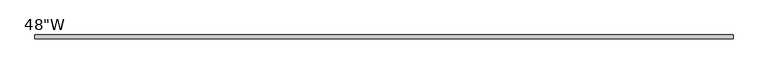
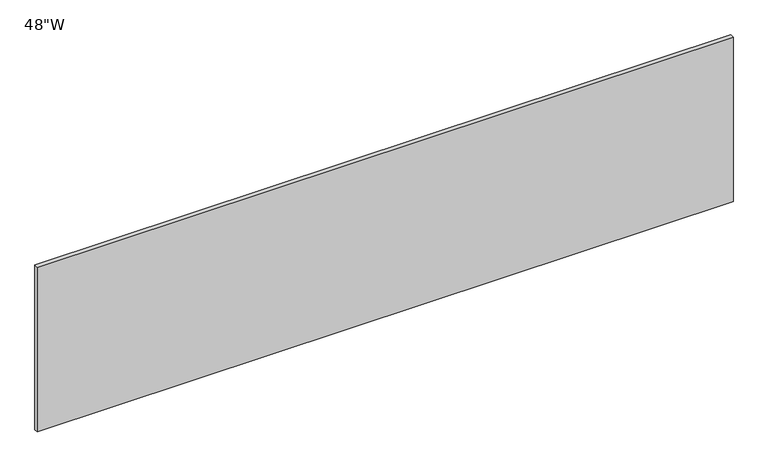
"""IFC4 building model written with IfcOpenShell, lengths in millimetres: furniture geometry."""

from ifc_helpers import new_model, si_unit, frame, origin, place, context, project, spatial, polyline, outline, extrude, source, transform, mapped, element, save


def furniture_c08c7397(model_context):
    return source(origin(), model_context, "Body", "SweptSolid", [
        extrude(outline(polyline([(596.9, -6.35), (-596.9, -6.35), (-596.9, 0.0), (596.9, 0.0), (596.9, -6.35)])), frame((0.0, 0.0, 1403.35), z_axis=(0.0, 0.0, 1.0), x_axis=(1.0, 0.0, 0.0)), (0.0, 0.0, 1.0), 298.45),
    ])


if __name__ == "__main__":
    model = new_model("IFC4")
    model_context = context("Model", 3, world=origin())
    ifc_project = project(units=[si_unit("LENGTHUNIT", "METRE", prefix="MILLI")], contexts=[model_context])
    site = spatial("IfcSite", under=ifc_project)
    building = spatial("IfcBuilding", under=site)
    placement = place(None, origin())
    furniture_shape = furniture_c08c7397(model_context)
    element("IfcFurniture", 1, ObjectType="HermanMiller_ActionOffice_A3390_B-StyleFlipperDoorBackPanel : 48\"W", at=placement, inside=building, context=model_context, shape_type="MappedRepresentation", body=[
        mapped(furniture_shape, transform((0.0, 0.0, 0.0), x_axis=(1.0, 0.0, 0.0), y_axis=(0.0, 1.0, 0.0), z_axis=(0.0, 0.0, 1.0))),
    ])
    save(model, "model.ifc")
